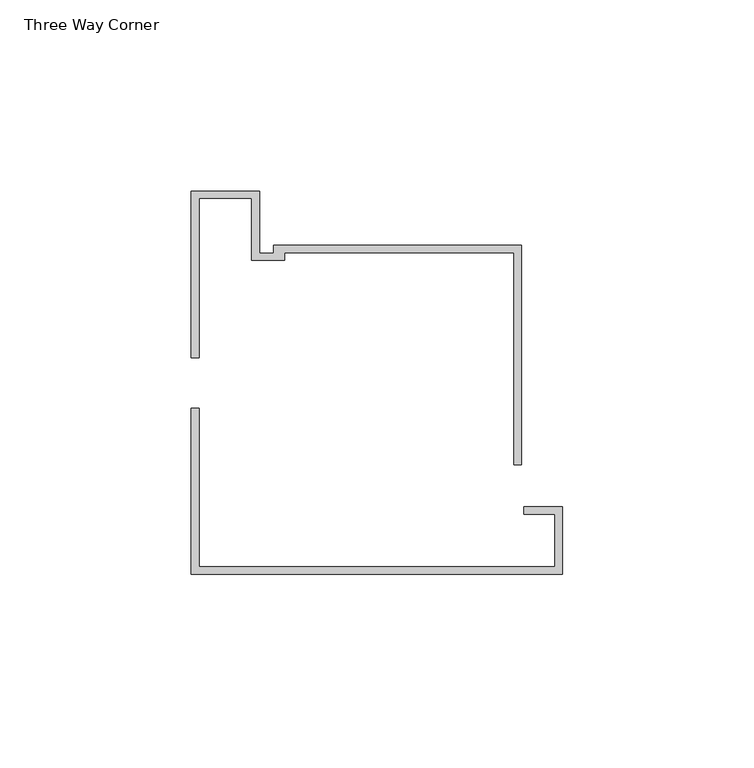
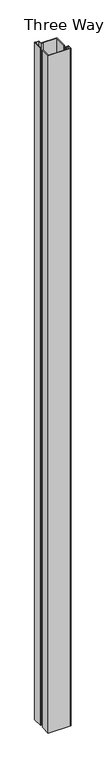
"""IFC4 building model written with IfcOpenShell, lengths in millimetres: proxy geometry, Connection-Corner-Teknion-OptosLP-Three_Way_FZCA3A_C : Three Way Corner."""

from ifc_helpers import new_model, si_unit, origin, origin_with_axes, place, context, project, spatial, polyline, outline, extrude, source, transform, mapped, element, save


def three_way_corner_d6935a31(model_context):
    return source(origin(), model_context, "Body", "SweptSolid", [
        extrude(outline(polyline([(-50.00625, 50.00635), (-32.2239919, 50.00635), (-32.2239919, 33.8753016), (-28.578629, 33.8753016), (-28.578629, 36.004572), (36.2014401, 36.004572), (36.2014401, -21.3563132), (34.2964401, -21.3563132), (34.2964401, 33.9723139), (-25.6192532, 33.9723139), (-25.6192532, 32.0970758), (-34.25625, 32.0970758), (-34.25625, 48.2281242), (-47.9739919, 48.2281242), (-47.9739919, 6.5668339), (-50.00625, 6.5668339), (-50.00625, 50.00635)])), origin_with_axes(), (0.0, 0.0, 1.0), 3048.0),
        extrude(outline(polyline([(46.99375, -32.3004567), (46.99375, -50.00635), (-50.00625, -50.00635), (-50.00625, -6.5668339), (-47.9739919, -6.5668339), (-47.9739919, -47.9740919), (44.9614919, -47.9740919), (44.9614919, -34.3324567), (36.83375, -34.3324567), (36.83375, -32.3004567), (46.99375, -32.3004567)])), origin_with_axes(), (0.0, 0.0, 1.0), 3048.0),
    ])


if __name__ == "__main__":
    model = new_model("IFC4")
    model_context = context("Model", 3, world=origin())
    ifc_project = project(units=[si_unit("LENGTHUNIT", "METRE", prefix="MILLI")], contexts=[model_context])
    site = spatial("IfcSite", under=ifc_project)
    building = spatial("IfcBuilding", under=site)
    placement = place(None, origin())
    three_way_corner_shape = three_way_corner_d6935a31(model_context)
    element("IfcBuildingElementProxy", 1, Name="Connection-Corner-Teknion-OptosLP-Three_Way_FZCA3A_C : Three Way Corner", ObjectType="Connection-Corner-Teknion-OptosLP-Three_Way_FZCA3A_C : Three Way Corner", at=placement, inside=building, context=model_context, shape_type="MappedRepresentation", body=[
        mapped(three_way_corner_shape, transform((0.0, 0.0, 0.0), x_axis=(1.0, 0.0, 0.0), y_axis=(0.0, 1.0, 0.0), z_axis=(0.0, 0.0, 1.0))),
    ])
    save(model, "model.ifc")
